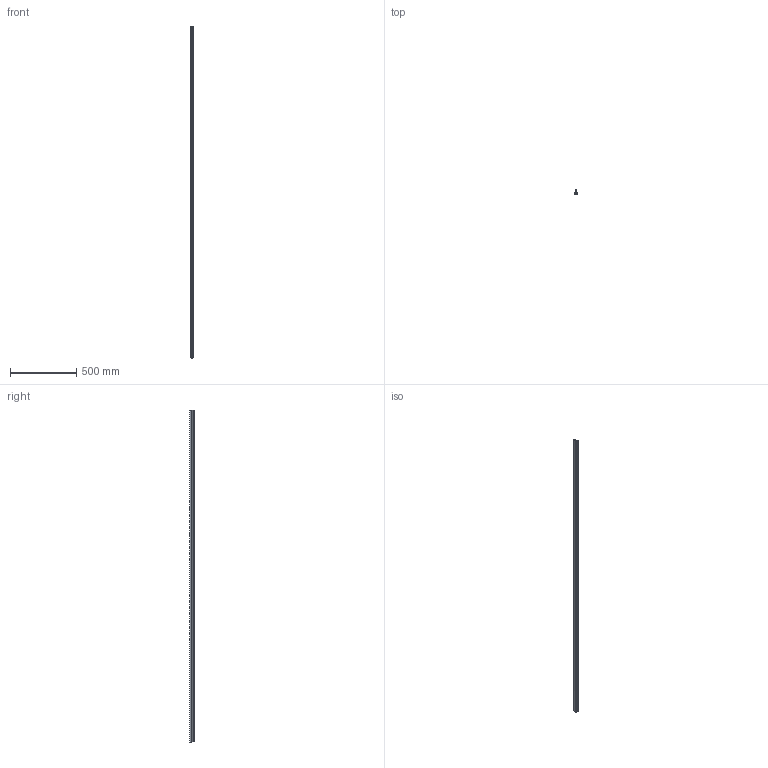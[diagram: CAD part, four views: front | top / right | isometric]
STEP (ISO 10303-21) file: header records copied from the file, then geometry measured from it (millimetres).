
FILE_DESCRIPTION (( 'STEP AP203' ), '1' );
FILE_NAME ('LFS-12-11_-_LFS-12-11 L=2498 - ArtNr 220002 2498.step', '2015-05-04T10:57:02', ( '' ), ( '' ), 'SwSTEP 2.0', 'SolidWorks 2014', '' );
FILE_SCHEMA (( 'CONFIG_CONTROL_DESIGN' ));
Length unit declared in the file: millimetre
Products named in the file (1): LFS-12-11_-_LFS-12-11 L=2498 - ArtNr 220002 2498
Bounding box: 20 x 31 x 2500 mm (x, y, z)
Volume: 755702.5 mm3; surface area: 337748 mm2
Topology: 1 solids, 1 shells, 1696 faces, 4536 edges, 2890 vertices
Faces by surface type: cylinder 815, plane 781, cone 50, torus 50
Full cylindrical faces by diameter (mm): 7 x50, 8 x50, 12 x1
Entity records: 54304 total; most frequent: CARTESIAN_POINT 16320, ORIENTED_EDGE 8468, DIRECTION 6861, EDGE_CURVE 4234, VERTEX_POINT 2789, AXIS2_PLACEMENT_3D 2330, LINE 2201, VECTOR 2201
